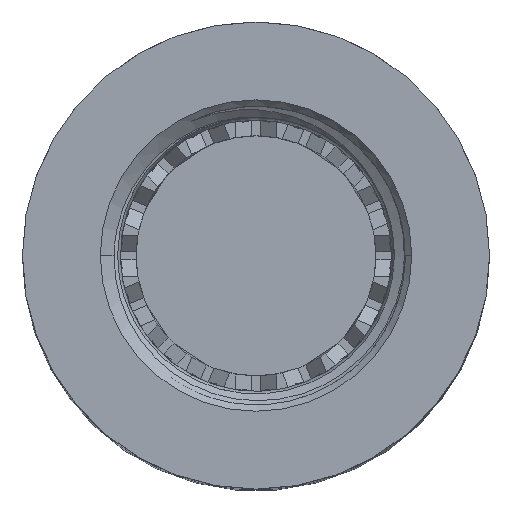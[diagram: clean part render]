
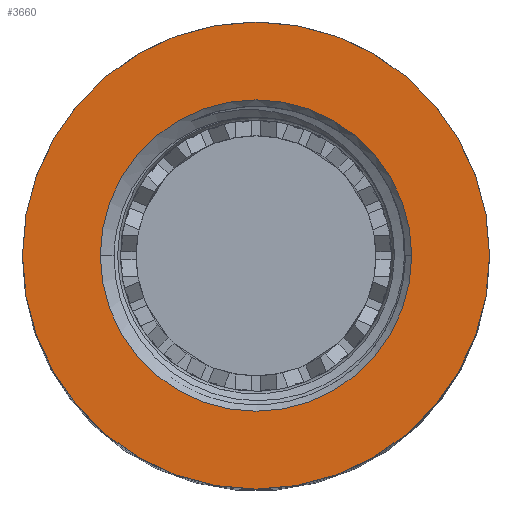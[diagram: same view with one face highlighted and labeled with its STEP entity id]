
A CAD part, top view. The second image highlights one B-rep face of the part: STEP entity #3660.
In plain terms, the highlighted planar face has unit normal (0, 0, 1).
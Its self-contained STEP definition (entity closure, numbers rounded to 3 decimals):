
#140 = DIRECTION ( 'NONE',  ( 1., 0., 0. ) ) ;
#175 = DIRECTION ( 'NONE',  ( -1., 0., 0. ) ) ;
#195 = DIRECTION ( 'NONE',  ( 1., 0., 0. ) ) ;
#423 = CARTESIAN_POINT ( 'NONE',  ( -11.621, 0., 5.664 ) ) ;
#496 = AXIS2_PLACEMENT_3D ( 'NONE', #3637, #2213, #2268 ) ;
#737 = AXIS2_PLACEMENT_3D ( 'NONE', #1538, #1081, #140 ) ;
#858 = EDGE_LOOP ( 'NONE', ( #876, #2934 ) ) ;
#876 = ORIENTED_EDGE ( 'NONE', *, *, #3901, .T. ) ;
#913 = EDGE_CURVE ( 'NONE', #4782, #4403, #3140, .T. ) ;
#1059 = ORIENTED_EDGE ( 'NONE', *, *, #913, .F. ) ;
#1081 = DIRECTION ( 'NONE',  ( 0., 0., -1. ) ) ;
#1130 = DIRECTION ( 'NONE',  ( 1., 0., 0. ) ) ;
#1521 = AXIS2_PLACEMENT_3D ( 'NONE', #1587, #3596, #1130 ) ;
#1538 = CARTESIAN_POINT ( 'NONE',  ( 0., 0., 5.664 ) ) ;
#1587 = CARTESIAN_POINT ( 'NONE',  ( 0., 0., 5.664 ) ) ;
#1934 = ORIENTED_EDGE ( 'NONE', *, *, #4297, .F. ) ;
#2009 = PLANE ( 'NONE',  #5944 ) ;
#2068 = DIRECTION ( 'NONE',  ( 0., 0., 1. ) ) ;
#2213 = DIRECTION ( 'NONE',  ( 0., 0., -1. ) ) ;
#2268 = DIRECTION ( 'NONE',  ( 1., 0., 0. ) ) ;
#2523 = CARTESIAN_POINT ( 'NONE',  ( 7.747, 0., 5.664 ) ) ;
#2714 = CARTESIAN_POINT ( 'NONE',  ( 11.621, 0., 5.664 ) ) ;
#2934 = ORIENTED_EDGE ( 'NONE', *, *, #4587, .T. ) ;
#3140 = CIRCLE ( 'NONE', #496, 11.621 ) ;
#3478 = VERTEX_POINT ( 'NONE', #5488 ) ;
#3490 = CARTESIAN_POINT ( 'NONE',  ( 0., 0., 5.664 ) ) ;
#3596 = DIRECTION ( 'NONE',  ( 0., 0., -1. ) ) ;
#3637 = CARTESIAN_POINT ( 'NONE',  ( 0., 0., 5.664 ) ) ;
#3660 = ADVANCED_FACE ( 'NONE', ( #4931, #4899 ), #2009, .T. ) ;
#3864 = VERTEX_POINT ( 'NONE', #2523 ) ;
#3901 = EDGE_CURVE ( 'NONE', #3864, #3478, #5270, .T. ) ;
#4102 = CIRCLE ( 'NONE', #5088, 11.621 ) ;
#4203 = CIRCLE ( 'NONE', #1521, 7.747 ) ;
#4297 = EDGE_CURVE ( 'NONE', #4403, #4782, #4102, .T. ) ;
#4403 = VERTEX_POINT ( 'NONE', #2714 ) ;
#4587 = EDGE_CURVE ( 'NONE', #3478, #3864, #4203, .T. ) ;
#4782 = VERTEX_POINT ( 'NONE', #423 ) ;
#4796 = DIRECTION ( 'NONE',  ( 0., 0., -1. ) ) ;
#4899 = FACE_OUTER_BOUND ( 'NONE', #4938, .T. ) ;
#4931 = FACE_BOUND ( 'NONE', #858, .T. ) ;
#4938 = EDGE_LOOP ( 'NONE', ( #1934, #1059 ) ) ;
#5088 = AXIS2_PLACEMENT_3D ( 'NONE', #3490, #4796, #195 ) ;
#5270 = CIRCLE ( 'NONE', #737, 7.747 ) ;
#5488 = CARTESIAN_POINT ( 'NONE',  ( -7.747, 0., 5.664 ) ) ;
#5779 = CARTESIAN_POINT ( 'NONE',  ( 11.621, 0., 5.664 ) ) ;
#5944 = AXIS2_PLACEMENT_3D ( 'NONE', #5779, #2068, #175 ) ;
